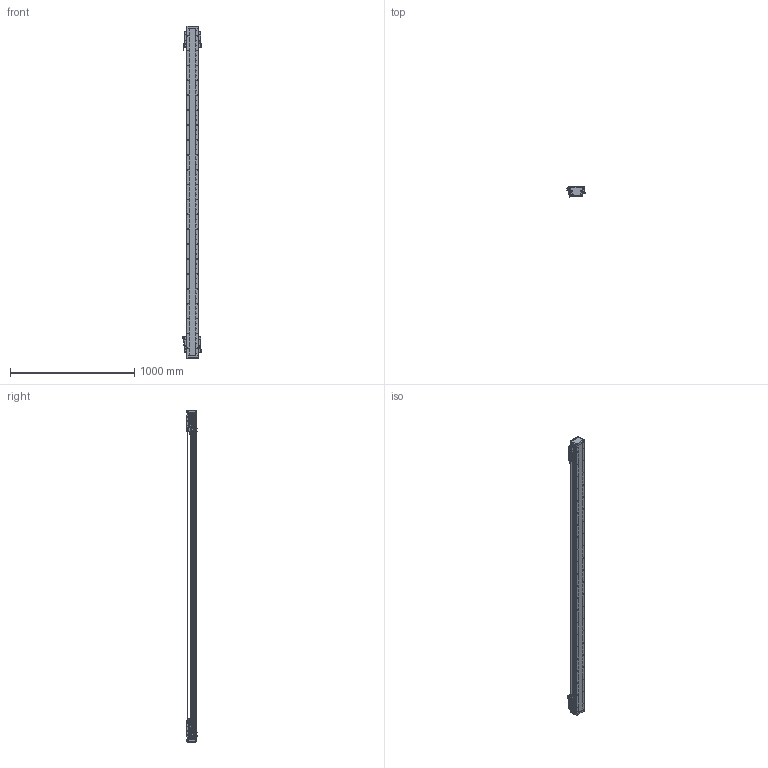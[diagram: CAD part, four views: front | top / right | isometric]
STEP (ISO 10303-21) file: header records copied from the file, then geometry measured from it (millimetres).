
FILE_DESCRIPTION (( 'STEP AP203' ), '1' );
FILE_NAME ('DA-B95-2-B15-T2300-C010-0.2 直线电机.STEP', '2023-05-06T06:38:48', ( '微软用户' ), ( '微软中国' ), 'SwSTEP 2.0', 'SolidWorks 2019', '' );
FILE_SCHEMA (( 'CONFIG_CONTROL_DESIGN' ));
Length unit declared in the file: millimetre
Products named in the file (34): 复件 DKW-GYP-ZJ-00 中间光电感应片^DA-A95-B15-T-C010-0.2-N 直线电机; 复件 DA95-HK-GT-00 滑块钢轨^66245-BU95-V-00 一体化滑动台板; 葩璃 PM-Y45^DA-A95-B15-T-C010-0.2-N 眻盄萇儂; 葩璃 DA95-B15-DP--B-00 菜えB^66245-BU95-V 幗紩賑怢; 复件 复件 18252-0001-004-00 钢带端盖^DA-A95-B15-T-C010-0.2-N 直线电机; 复件 DA95-B15-YB-A-00 压板A^66245-BU95-V 滚珠滑台; 复件 DA95-B15 钢带盖板^DA-A95-B15-T-C010-0.2-N 直线电机; 复件 DKW-KGZ-ZJ-00 中间光电开关支架^DA-A95-B15-T-C010-0.2-N 直线电机; DA95-HXJ-00 缓冲橡胶^DA-A95-B15-T-C010-0.2-N 直线电机; 复件 66245-BU95-HT-V-01 滑动台板^66245-BU95-V-00 一体化滑动台板; 复件 六角薄螺母 M3^DA-A95-B15-T-C010-0.2-N 直线电机_GB_FASTENER_NUT_STNAB M3-C; 66245-BU95-V 幗紩賑怢; PM-T45 光电开关^DA-A95-B15-T-C010-0.2-N 直线电机; 葩璃 DA95-B15-DP-A-00 菜えA^66245-BU95-V 幗紩賑怢; 复件 DA95-B15-YB-B-00 压板B^66245-BU95-V 滚珠滑台; 66245-BU95-V-00 珨极趙賑雄怢啣; LMDK-2-R001-V5-L02-C1-F00，0.2M 读数头^DA-A95-B15-T-C010-0.2-N 直线电机_DMA-010-0.2; IU-BU95-L-00 菁釱_L2640; 复件 DKW-HXJ-JY-00 缓冲橡胶^DA-A95-B15-T-C010-0.2-N 直线电机; IU-BU95-L 菁釱絳寢; 复件 纯铜油杯 6x6mm^66245-BU95-V 滚珠滑台; 葩璃 BKM015-W060-C1-TP-DA-0.2^DA-A95-B15-T-C010-0.2-N 眻盄萇儂; 复件 复件 18252-0001-002-00 钢带垫块^DA-A95-B15-T-C010-0.2-N 直线电机; 复件 DA95-DK-00 挡块^66245-BU95-V 滚珠滑台; DA-B95-2-B15-T2300-C010-0.2 眻盄萇儂; 葩璃 BKMA01-W060-TRL^DA-A95-B15-T-C010-0.2-N 眻盄萇儂; 复件 复件 18252-0001-003-00 钢带拉块^DA-A95-B15-T-C010-0.2-N 直线电机; 复件 DA95-MFP-01 密封片^66245-BU95-V 滚珠滑台; B15 XD-U-02L ｴﾅﾕ､ｳﾟ^DA-A95-B15-T-C010-0.2-N ﾖｱﾏﾟｵ扈銈XD-U-02L; 复件 DA95-DB-00  挡板^66245-BU95-V 滚珠滑台; 葩璃 DA95-GT-T-00^IU-BU95-L 菁釱絳寢_DA95; DA-A95-GYP-00 光电感应片^DA-A95-B15-T-C010-0.2-N 直线电机
Assembly tree (80 placements, depth 4):
  DA-B95-2-B15-T2300-C010-0.2 眻盄萇儂
    IU-BU95-L 菁釱絳寢
      IU-BU95-L-00 菁釱_L2640
      葩璃 DA95-GT-T-00^IU-BU95-L 菁釱絳寢_DA95  x2
    66245-BU95-V 幗紩賑怢
      66245-BU95-V-00 珨极趙賑雄怢啣
        复件 66245-BU95-HT-V-01 滑动台板^66245-BU95-V-00 一体化滑动台板
        复件 DA95-HK-GT-00 滑块钢轨^66245-BU95-V-00 一体化滑动台板  x2
      葩璃 DA95-B15-DP-A-00 菜えA^66245-BU95-V 幗紩賑怢
      复件 DA95-B15-YB-A-00 压板A^66245-BU95-V 滚珠滑台
      复件 DA95-B15-YB-B-00 压板B^66245-BU95-V 滚珠滑台
      复件 DA95-DB-00  挡板^66245-BU95-V 滚珠滑台  x4
      复件 DA95-DK-00 挡块^66245-BU95-V 滚珠滑台  x2
      复件 DA95-MFP-01 密封片^66245-BU95-V 滚珠滑台  x4
      复件 纯铜油杯 6x6mm^66245-BU95-V 滚珠滑台  x2
      葩璃 DA95-B15-DP--B-00 菜えB^66245-BU95-V 幗紩賑怢
    66245-BU95-V 幗紩賑怢
      66245-BU95-V-00 珨极趙賑雄怢啣
        复件 66245-BU95-HT-V-01 滑动台板^66245-BU95-V-00 一体化滑动台板
        复件 DA95-HK-GT-00 滑块钢轨^66245-BU95-V-00 一体化滑动台板  x2
      葩璃 DA95-B15-DP-A-00 菜えA^66245-BU95-V 幗紩賑怢
      复件 DA95-B15-YB-A-00 压板A^66245-BU95-V 滚珠滑台
      复件 DA95-B15-YB-B-00 压板B^66245-BU95-V 滚珠滑台
      复件 DA95-DB-00  挡板^66245-BU95-V 滚珠滑台  x4
      复件 DA95-DK-00 挡块^66245-BU95-V 滚珠滑台  x2
      复件 DA95-MFP-01 密封片^66245-BU95-V 滚珠滑台  x4
      复件 纯铜油杯 6x6mm^66245-BU95-V 滚珠滑台  x2
      葩璃 DA95-B15-DP--B-00 菜えB^66245-BU95-V 幗紩賑怢
    DA-A95-GYP-00 光电感应片^DA-A95-B15-T-C010-0.2-N 直线电机  x2
    LMDK-2-R001-V5-L02-C1-F00，0.2M 读数头^DA-A95-B15-T-C010-0.2-N 直线电机_DMA-010-0.2  x2
    复件 DKW-KGZ-ZJ-00 中间光电开关支架^DA-A95-B15-T-C010-0.2-N 直线电机
    葩璃 PM-Y45^DA-A95-B15-T-C010-0.2-N 眻盄萇儂
    复件 DKW-GYP-ZJ-00 中间光电感应片^DA-A95-B15-T-C010-0.2-N 直线电机
    葩璃 BKM015-W060-C1-TP-DA-0.2^DA-A95-B15-T-C010-0.2-N 眻盄萇儂  x2
    复件 DKW-HXJ-JY-00 缓冲橡胶^DA-A95-B15-T-C010-0.2-N 直线电机  x2
    PM-T45 光电开关^DA-A95-B15-T-C010-0.2-N 直线电机  x4
    B15 XD-U-02L ｴﾅﾕ､ｳﾟ^DA-A95-B15-T-C010-0.2-N ﾖｱﾏﾟｵ扈銈XD-U-02L
    复件 复件 18252-0001-003-00 钢带拉块^DA-A95-B15-T-C010-0.2-N 直线电机  x2
    复件 复件 18252-0001-002-00 钢带垫块^DA-A95-B15-T-C010-0.2-N 直线电机  x2
    复件 复件 18252-0001-004-00 钢带端盖^DA-A95-B15-T-C010-0.2-N 直线电机  x2
    复件 DA95-B15 钢带盖板^DA-A95-B15-T-C010-0.2-N 直线电机
    DA95-HXJ-00 缓冲橡胶^DA-A95-B15-T-C010-0.2-N 直线电机  x4
    葩璃 BKMA01-W060-TRL^DA-A95-B15-T-C010-0.2-N 眻盄萇儂
    复件 六角薄螺母 M3^DA-A95-B15-T-C010-0.2-N 直线电机_GB_FASTENER_NUT_STNAB M3-C  x6
Bounding box: 145.4 x 90.2 x 2676 mm (x, y, z)
Volume: 8636500.5 mm3; surface area: 2864557 mm2
Topology: 75 solids, 93 shells, 4256 faces, 12028 edges, 7631 vertices
Faces by surface type: cylinder 2197, plane 1527, cone 464, torus 64, sphere 4
Entity records: 104030 total; most frequent: CARTESIAN_POINT 27348, ORIENTED_EDGE 15414, DIRECTION 14882, EDGE_CURVE 7707, AXIS2_PLACEMENT_3D 5669, VERTEX_POINT 5033, VECTOR 3544, LINE 3544
